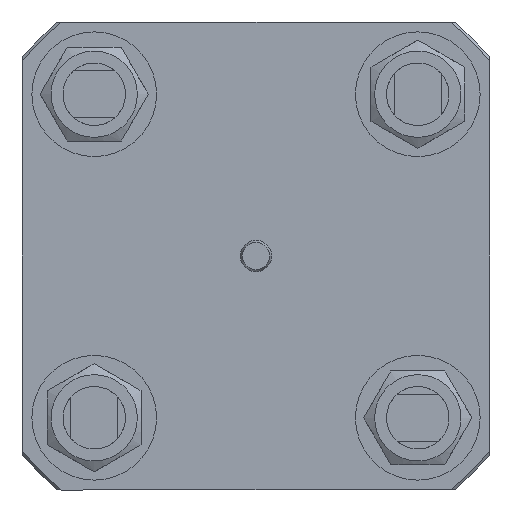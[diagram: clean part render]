
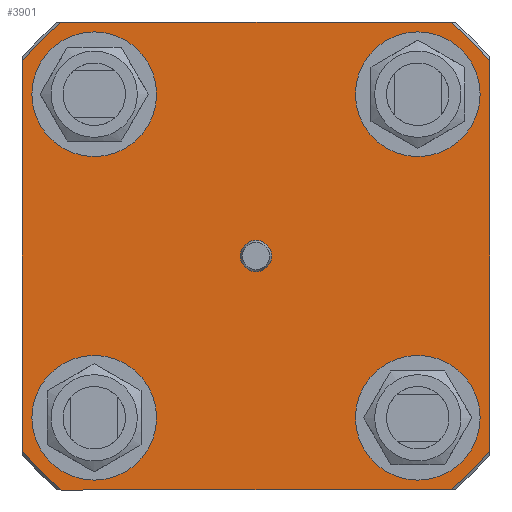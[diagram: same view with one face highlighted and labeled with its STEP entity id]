
A CAD part, left-side view. The second image highlights one B-rep face of the part: STEP entity #3901.
In plain terms, the highlighted planar face has unit normal (-1, 0, 0).
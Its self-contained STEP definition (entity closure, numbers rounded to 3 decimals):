
#64=FACE_BOUND('',#1215,.T.);
#65=FACE_BOUND('',#1216,.T.);
#66=FACE_BOUND('',#1217,.T.);
#67=FACE_BOUND('',#1218,.T.);
#68=FACE_BOUND('',#1219,.T.);
#438=LINE('',#6603,#668);
#439=LINE('',#6607,#669);
#440=LINE('',#6611,#670);
#441=LINE('',#6615,#671);
#668=VECTOR('',#5237,10.);
#669=VECTOR('',#5240,10.);
#670=VECTOR('',#5243,10.);
#671=VECTOR('',#5246,10.);
#950=FACE_OUTER_BOUND('',#1214,.T.);
#1214=EDGE_LOOP('',(#3245,#3246,#3247,#3248,#3249,#3250,#3251,#3252));
#1215=EDGE_LOOP('',(#3253));
#1216=EDGE_LOOP('',(#3254));
#1217=EDGE_LOOP('',(#3255));
#1218=EDGE_LOOP('',(#3256));
#1219=EDGE_LOOP('',(#3257));
#1444=CIRCLE('',#4232,3.);
#1455=CIRCLE('',#4274,12.);
#1457=CIRCLE('',#4278,12.);
#1459=CIRCLE('',#4282,12.);
#1463=CIRCLE('',#4297,12.);
#1472=CIRCLE('',#4309,58.5);
#1473=CIRCLE('',#4310,58.5);
#1474=CIRCLE('',#4311,58.5);
#1475=CIRCLE('',#4312,58.5);
#1725=VERTEX_POINT('',#6227);
#1772=VERTEX_POINT('',#6450);
#1774=VERTEX_POINT('',#6457);
#1776=VERTEX_POINT('',#6464);
#1792=VERTEX_POINT('',#6540);
#1807=VERTEX_POINT('',#6601);
#1808=VERTEX_POINT('',#6602);
#1809=VERTEX_POINT('',#6604);
#1810=VERTEX_POINT('',#6606);
#1811=VERTEX_POINT('',#6608);
#1812=VERTEX_POINT('',#6610);
#1813=VERTEX_POINT('',#6612);
#1814=VERTEX_POINT('',#6614);
#2190=EDGE_CURVE('',#1725,#1725,#1444,.T.);
#2263=EDGE_CURVE('',#1772,#1772,#1455,.T.);
#2266=EDGE_CURVE('',#1774,#1774,#1457,.T.);
#2269=EDGE_CURVE('',#1776,#1776,#1459,.T.);
#2294=EDGE_CURVE('',#1792,#1792,#1463,.T.);
#2311=EDGE_CURVE('',#1807,#1808,#438,.T.);
#2312=EDGE_CURVE('',#1808,#1809,#1472,.T.);
#2313=EDGE_CURVE('',#1809,#1810,#439,.T.);
#2314=EDGE_CURVE('',#1810,#1811,#1473,.T.);
#2315=EDGE_CURVE('',#1811,#1812,#440,.T.);
#2316=EDGE_CURVE('',#1812,#1813,#1474,.T.);
#2317=EDGE_CURVE('',#1813,#1814,#441,.T.);
#2318=EDGE_CURVE('',#1814,#1807,#1475,.T.);
#3245=ORIENTED_EDGE('',*,*,#2311,.T.);
#3246=ORIENTED_EDGE('',*,*,#2312,.T.);
#3247=ORIENTED_EDGE('',*,*,#2313,.T.);
#3248=ORIENTED_EDGE('',*,*,#2314,.T.);
#3249=ORIENTED_EDGE('',*,*,#2315,.T.);
#3250=ORIENTED_EDGE('',*,*,#2316,.T.);
#3251=ORIENTED_EDGE('',*,*,#2317,.T.);
#3252=ORIENTED_EDGE('',*,*,#2318,.T.);
#3253=ORIENTED_EDGE('',*,*,#2190,.T.);
#3254=ORIENTED_EDGE('',*,*,#2263,.T.);
#3255=ORIENTED_EDGE('',*,*,#2266,.T.);
#3256=ORIENTED_EDGE('',*,*,#2269,.T.);
#3257=ORIENTED_EDGE('',*,*,#2294,.T.);
#3737=PLANE('',#4308);
#3901=ADVANCED_FACE('',(#950,#64,#65,#66,#67,#68),#3737,.T.);
#4232=AXIS2_PLACEMENT_3D('',#6228,#5040,#5041);
#4274=AXIS2_PLACEMENT_3D('',#6451,#5150,#5151);
#4278=AXIS2_PLACEMENT_3D('',#6458,#5159,#5160);
#4282=AXIS2_PLACEMENT_3D('',#6465,#5168,#5169);
#4297=AXIS2_PLACEMENT_3D('',#6541,#5207,#5208);
#4308=AXIS2_PLACEMENT_3D('',#6600,#5235,#5236);
#4309=AXIS2_PLACEMENT_3D('',#6605,#5238,#5239);
#4310=AXIS2_PLACEMENT_3D('',#6609,#5241,#5242);
#4311=AXIS2_PLACEMENT_3D('',#6613,#5244,#5245);
#4312=AXIS2_PLACEMENT_3D('',#6616,#5247,#5248);
#5040=DIRECTION('center_axis',(1.,0.,0.));
#5041=DIRECTION('ref_axis',(0.,1.,0.));
#5150=DIRECTION('center_axis',(1.,0.,0.));
#5151=DIRECTION('ref_axis',(0.,-1.,0.));
#5159=DIRECTION('center_axis',(1.,0.,0.));
#5160=DIRECTION('ref_axis',(0.,0.,-1.));
#5168=DIRECTION('center_axis',(1.,0.,0.));
#5169=DIRECTION('ref_axis',(0.,1.,0.));
#5207=DIRECTION('center_axis',(1.,0.,0.));
#5208=DIRECTION('ref_axis',(0.,0.,
1.));
#5235=DIRECTION('center_axis',(-1.,0.,0.));
#5236=DIRECTION('ref_axis',(0.,0.,
-1.));
#5237=DIRECTION('',(0.,-1.,0.));
#5238=DIRECTION('center_axis',(-1.,0.,0.));
#5239=DIRECTION('ref_axis',(0.,0.,
-1.));
#5240=DIRECTION('',(0.,0.,1.));
#5241=DIRECTION('center_axis',(-1.,0.,0.));
#5242=DIRECTION('ref_axis',(0.,0.,
-1.));
#5243=DIRECTION('',(0.,1.,0.));
#5244=DIRECTION('center_axis',(-1.,0.,0.));
#5245=DIRECTION('ref_axis',(0.,0.,
-1.));
#5246=DIRECTION('',(0.,0.,-1.));
#5247=DIRECTION('center_axis',(-1.,0.,0.));
#5248=DIRECTION('ref_axis',(0.,0.,
-1.));
#6227=CARTESIAN_POINT('',(-2.708,-3.,0.));
#6228=CARTESIAN_POINT('Origin',(-2.708,0.,
0.));
#6450=CARTESIAN_POINT('',(-2.708,-19.113,31.113));
#6451=CARTESIAN_POINT('Origin',(-2.708,-31.113,31.113));
#6457=CARTESIAN_POINT('',(-2.708,-31.113,-19.113));
#6458=CARTESIAN_POINT('Origin',(-2.708,-31.113,-31.113));
#6464=CARTESIAN_POINT('',(-2.708,19.113,-31.113));
#6465=CARTESIAN_POINT('Origin',(-2.708,31.113,-31.113));
#6540=CARTESIAN_POINT('',(-2.708,31.113,19.113));
#6541=CARTESIAN_POINT('Origin',(-2.708,31.113,31.113));
#6600=CARTESIAN_POINT('Origin',(-2.708,-3.1,0.));
#6601=CARTESIAN_POINT('',(-2.708,37.38,-45.));
#6602=CARTESIAN_POINT('',(-2.708,-37.38,-45.));
#6603=CARTESIAN_POINT('',(-2.708,20.95,-45.));
#6604=CARTESIAN_POINT('',(-2.708,-45.,-37.38));
#6605=CARTESIAN_POINT('Origin',(-2.708,0.,
0.));
#6606=CARTESIAN_POINT('',(-2.708,-45.,37.38));
#6607=CARTESIAN_POINT('',(-2.708,-45.,-22.5));
#6608=CARTESIAN_POINT('',(-2.708,-37.38,45.));
#6609=CARTESIAN_POINT('Origin',(-2.708,0.,
0.));
#6610=CARTESIAN_POINT('',(-2.708,37.38,45.));
#6611=CARTESIAN_POINT('',(-2.708,-24.05,45.));
#6612=CARTESIAN_POINT('',(-2.708,45.,37.38));
#6613=CARTESIAN_POINT('Origin',(-2.708,0.,
0.));
#6614=CARTESIAN_POINT('',(-2.708,45.,-37.38));
#6615=CARTESIAN_POINT('',(-2.708,45.,22.5));
#6616=CARTESIAN_POINT('Origin',(-2.708,0.,
0.));
